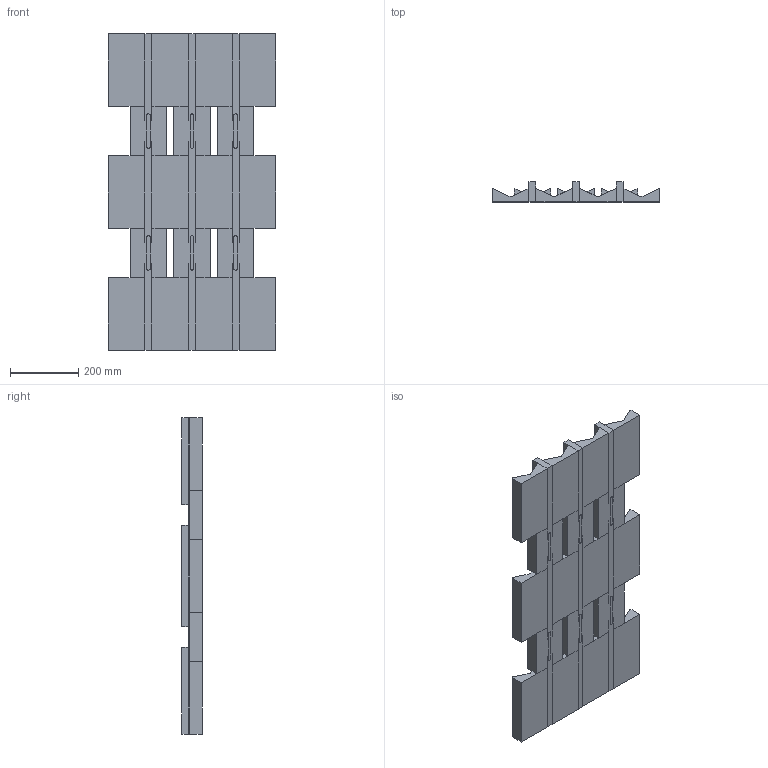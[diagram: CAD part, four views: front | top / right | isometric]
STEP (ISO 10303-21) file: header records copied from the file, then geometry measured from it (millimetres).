
FILE_DESCRIPTION (( 'STEP AP203' ), '1' );
FILE_NAME ('WEDGED WALL WOOD RUG 93x49x6.STEP', '2023-09-18T06:21:10', ( '' ), ( '' ), 'SwSTEP 2.0', 'SolidWorks 2023', '' );
FILE_SCHEMA (( 'CONFIG_CONTROL_DESIGN' ));
Length unit declared in the file: millimetre
Products named in the file (2): WEDGED WALL WOOD RUG 93x49x6; Group1^WEDGED WALL WOOD RUG 93x49x6
Assembly tree (1 placements, depth 2):
  WEDGED WALL WOOD RUG 93x49x6
    Group1^WEDGED WALL WOOD RUG 93x49x6
Bounding box: 492 x 60 x 929 mm (x, y, z)
Volume: 12891836.7 mm3; surface area: 1167219.1 mm2
Topology: 1 solids, 1 shells, 264 faces, 762 edges, 492 vertices
Faces by surface type: plane 210, cylinder 54
Entity records: 8754 total; most frequent: ORIENTED_EDGE 1524, CARTESIAN_POINT 1522, DIRECTION 1418, EDGE_CURVE 762, VECTOR 642, LINE 642, VERTEX_POINT 492, AXIS2_PLACEMENT_3D 388
